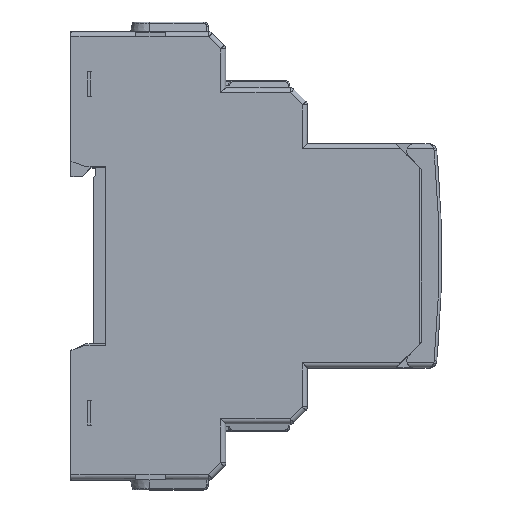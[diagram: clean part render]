
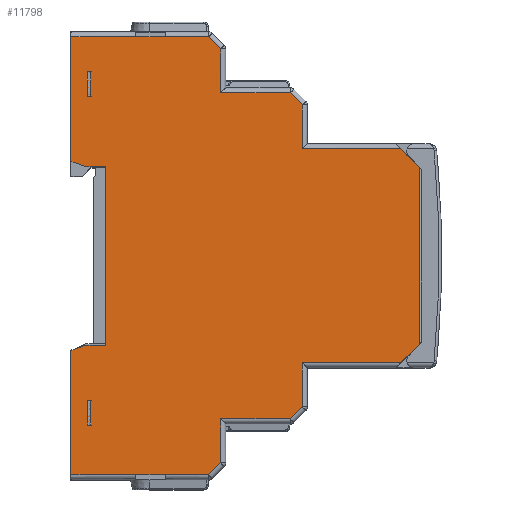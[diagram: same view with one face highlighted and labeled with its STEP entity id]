
A CAD part, top view. The second image highlights one B-rep face of the part: STEP entity #11798.
In plain terms, the highlighted planar face has unit normal (0, 0, 1).
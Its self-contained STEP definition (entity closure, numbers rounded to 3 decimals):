
#1291=FACE_OUTER_BOUND($,#1913,.T.);
#1913=EDGE_LOOP($,(#9341,#9342,#9343,#9344,#9345,#9346,#9347,#9348,#9349,
#9350,#9351,#9352,#9353,#9354,#9355,#9356,#9357,#9358,#9359,#9360,#9361,
#9362,#9363,#9364,#9365,#9366,#9367,#9368));
#2600=LINE($,#17263,#3821);
#2616=LINE($,#17299,#3837);
#2851=LINE($,#18080,#4072);
#2867=LINE($,#18133,#4088);
#3095=LINE($,#18943,#4316);
#3096=LINE($,#18945,#4317);
#3097=LINE($,#18947,#4318);
#3098=LINE($,#18949,#4319);
#3099=LINE($,#18951,#4320);
#3100=LINE($,#18953,#4321);
#3101=LINE($,#18955,#4322);
#3102=LINE($,#18957,#4323);
#3103=LINE($,#18959,#4324);
#3104=LINE($,#18961,#4325);
#3105=LINE($,#18963,#4326);
#3106=LINE($,#18965,#4327);
#3107=LINE($,#18967,#4328);
#3108=LINE($,#18969,#4329);
#3109=LINE($,#18971,#4330);
#3110=LINE($,#18973,#4331);
#3111=LINE($,#18974,#4332);
#3112=LINE($,#18975,#4333);
#3113=LINE($,#18977,#4334);
#3114=LINE($,#18979,#4335);
#3115=LINE($,#18981,#4336);
#3116=LINE($,#18983,#4337);
#3117=LINE($,#18984,#4338);
#3118=LINE($,#18985,#4339);
#3821=VECTOR($,#13713,6.);
#3837=VECTOR($,#13735,6.);
#4072=VECTOR($,#14364,25.);
#4088=VECTOR($,#14416,25.);
#4316=VECTOR($,#14928,8.686);
#4317=VECTOR($,#14929,3.414);
#4318=VECTOR($,#14930,8.836);
#4319=VECTOR($,#14931,13.986);
#4320=VECTOR($,#14932,3.414);
#4321=VECTOR($,#14933,8.836);
#4322=VECTOR($,#14934,19.8);
#4323=VECTOR($,#14935,5.233);
#4324=VECTOR($,#14936,35.6);
#4325=VECTOR($,#14937,5.233);
#4326=VECTOR($,#14938,19.8);
#4327=VECTOR($,#14939,8.836);
#4328=VECTOR($,#14940,3.414);
#4329=VECTOR($,#14941,13.986);
#4330=VECTOR($,#14942,8.836);
#4331=VECTOR($,#14943,3.414);
#4332=VECTOR($,#14944,8.686);
#4333=VECTOR($,#14945,13.);
#4334=VECTOR($,#14946,3.178);
#4335=VECTOR($,#14947,4.);
#4336=VECTOR($,#14948,35.9);
#4337=VECTOR($,#14949,4.);
#4338=VECTOR($,#14950,3.178);
#4339=VECTOR($,#14951,13.);
#4984=VERTEX_POINT($,#17257);
#4986=VERTEX_POINT($,#17261);
#5001=VERTEX_POINT($,#17295);
#5003=VERTEX_POINT($,#17298);
#5288=VERTEX_POINT($,#18070);
#5292=VERTEX_POINT($,#18078);
#5310=VERTEX_POINT($,#18130);
#5311=VERTEX_POINT($,#18132);
#5595=VERTEX_POINT($,#18942);
#5596=VERTEX_POINT($,#18944);
#5597=VERTEX_POINT($,#18946);
#5598=VERTEX_POINT($,#18948);
#5599=VERTEX_POINT($,#18950);
#5600=VERTEX_POINT($,#18952);
#5601=VERTEX_POINT($,#18954);
#5602=VERTEX_POINT($,#18956);
#5603=VERTEX_POINT($,#18958);
#5604=VERTEX_POINT($,#18960);
#5605=VERTEX_POINT($,#18962);
#5606=VERTEX_POINT($,#18964);
#5607=VERTEX_POINT($,#18966);
#5608=VERTEX_POINT($,#18968);
#5609=VERTEX_POINT($,#18970);
#5610=VERTEX_POINT($,#18972);
#5611=VERTEX_POINT($,#18976);
#5612=VERTEX_POINT($,#18978);
#5613=VERTEX_POINT($,#18980);
#5614=VERTEX_POINT($,#18982);
#6336=EDGE_CURVE($,#4984,#4986,#2600,.T.);
#6352=EDGE_CURVE($,#5003,#5001,#2616,.T.);
#6702=EDGE_CURVE($,#5288,#5292,#2851,.T.);
#6727=EDGE_CURVE($,#5311,#5310,#2867,.T.);
#7084=EDGE_CURVE($,#5001,#5595,#3095,.T.);
#7085=EDGE_CURVE($,#5595,#5596,#3096,.T.);
#7086=EDGE_CURVE($,#5596,#5597,#3097,.T.);
#7087=EDGE_CURVE($,#5597,#5598,#3098,.T.);
#7088=EDGE_CURVE($,#5598,#5599,#3099,.T.);
#7089=EDGE_CURVE($,#5599,#5600,#3100,.T.);
#7090=EDGE_CURVE($,#5600,#5601,#3101,.T.);
#7091=EDGE_CURVE($,#5601,#5602,#3102,.T.);
#7092=EDGE_CURVE($,#5602,#5603,#3103,.T.);
#7093=EDGE_CURVE($,#5604,#5603,#3104,.T.);
#7094=EDGE_CURVE($,#5604,#5605,#3105,.T.);
#7095=EDGE_CURVE($,#5605,#5606,#3106,.T.);
#7096=EDGE_CURVE($,#5606,#5607,#3107,.T.);
#7097=EDGE_CURVE($,#5607,#5608,#3108,.T.);
#7098=EDGE_CURVE($,#5608,#5609,#3109,.T.);
#7099=EDGE_CURVE($,#5609,#5610,#3110,.T.);
#7100=EDGE_CURVE($,#5610,#4984,#3111,.T.);
#7101=EDGE_CURVE($,#4986,#5288,#3112,.T.);
#7102=EDGE_CURVE($,#5611,#5292,#3113,.T.);
#7103=EDGE_CURVE($,#5612,#5611,#3114,.T.);
#7104=EDGE_CURVE($,#5613,#5612,#3115,.T.);
#7105=EDGE_CURVE($,#5614,#5613,#3116,.T.);
#7106=EDGE_CURVE($,#5311,#5614,#3117,.T.);
#7107=EDGE_CURVE($,#5310,#5003,#3118,.T.);
#9341=ORIENTED_EDGE($,*,*,#7084,.T.);
#9342=ORIENTED_EDGE($,*,*,#7085,.T.);
#9343=ORIENTED_EDGE($,*,*,#7086,.T.);
#9344=ORIENTED_EDGE($,*,*,#7087,.T.);
#9345=ORIENTED_EDGE($,*,*,#7088,.T.);
#9346=ORIENTED_EDGE($,*,*,#7089,.T.);
#9347=ORIENTED_EDGE($,*,*,#7090,.T.);
#9348=ORIENTED_EDGE($,*,*,#7091,.T.);
#9349=ORIENTED_EDGE($,*,*,#7092,.T.);
#9350=ORIENTED_EDGE($,*,*,#7093,.F.);
#9351=ORIENTED_EDGE($,*,*,#7094,.T.);
#9352=ORIENTED_EDGE($,*,*,#7095,.T.);
#9353=ORIENTED_EDGE($,*,*,#7096,.T.);
#9354=ORIENTED_EDGE($,*,*,#7097,.T.);
#9355=ORIENTED_EDGE($,*,*,#7098,.T.);
#9356=ORIENTED_EDGE($,*,*,#7099,.T.);
#9357=ORIENTED_EDGE($,*,*,#7100,.T.);
#9358=ORIENTED_EDGE($,*,*,#6336,.T.);
#9359=ORIENTED_EDGE($,*,*,#7101,.T.);
#9360=ORIENTED_EDGE($,*,*,#6702,.T.);
#9361=ORIENTED_EDGE($,*,*,#7102,.F.);
#9362=ORIENTED_EDGE($,*,*,#7103,.F.);
#9363=ORIENTED_EDGE($,*,*,#7104,.F.);
#9364=ORIENTED_EDGE($,*,*,#7105,.F.);
#9365=ORIENTED_EDGE($,*,*,#7106,.F.);
#9366=ORIENTED_EDGE($,*,*,#6727,.T.);
#9367=ORIENTED_EDGE($,*,*,#7107,.T.);
#9368=ORIENTED_EDGE($,*,*,#6352,.T.);
#11484=PLANE($,#12634);
#11798=ADVANCED_FACE($,(#1291),#11484,.F.);
#12634=AXIS2_PLACEMENT_3D($,#18941,#14926,#14927);
#13713=DIRECTION($,(-1.,0.,0.));
#13735=DIRECTION($,(1.,0.,0.));
#14364=DIRECTION($,(0.,-1.,0.));
#14416=DIRECTION($,(0.,-1.,0.));
#14926=DIRECTION('center_axis',(0.,0.,-1.));
#14927=DIRECTION('ref_axis',(-1.,0.,0.));
#14928=DIRECTION($,(1.,0.,0.));
#14929=DIRECTION($,(0.707,0.707,0.));
#14930=DIRECTION($,(0.,1.,0.));
#14931=DIRECTION($,(1.,0.,0.));
#14932=DIRECTION($,(0.707,0.707,0.));
#14933=DIRECTION($,(0.,1.,0.));
#14934=DIRECTION($,(1.,0.,0.));
#14935=DIRECTION($,(0.707,0.707,0.));
#14936=DIRECTION($,(0.,1.,0.));
#14937=DIRECTION($,(0.707,-0.707,0.));
#14938=DIRECTION($,(-1.,0.,0.));
#14939=DIRECTION($,(0.,1.,0.));
#14940=DIRECTION($,(-0.707,0.707,0.));
#14941=DIRECTION($,(-1.,0.,0.));
#14942=DIRECTION($,(0.,1.,0.));
#14943=DIRECTION($,(-0.707,0.707,0.));
#14944=DIRECTION($,(-1.,0.,0.));
#14945=DIRECTION($,(-1.,0.,0.));
#14946=DIRECTION($,(-0.944,0.33,0.));
#14947=DIRECTION($,(-1.,0.,0.));
#14948=DIRECTION($,(0.,1.,0.));
#14949=DIRECTION($,(1.,0.,0.));
#14950=DIRECTION($,(0.944,0.33,0.));
#14951=DIRECTION($,(1.,0.,0.));
#17257=CARTESIAN_POINT('',(19.,44.,18.));
#17261=CARTESIAN_POINT('',(13.,44.,18.));
#17263=CARTESIAN_POINT($,(19.,44.,18.));
#17295=CARTESIAN_POINT('',(19.,-44.,18.));
#17298=CARTESIAN_POINT('',(13.,-44.,18.));
#17299=CARTESIAN_POINT($,(13.,-44.,18.));
#18070=CARTESIAN_POINT('',(0.,44.,18.));
#18078=CARTESIAN_POINT('',(0.,19.,18.));
#18080=CARTESIAN_POINT($,(0.,-45.,18.));
#18130=CARTESIAN_POINT('',(0.,-44.,18.));
#18132=CARTESIAN_POINT('',(0.,-19.,18.));
#18133=CARTESIAN_POINT($,(0.,-45.,18.));
#18941=CARTESIAN_POINT('Origin',(31.1,45.,18.));
#18942=CARTESIAN_POINT('',(27.686,-44.,18.));
#18943=CARTESIAN_POINT($,(31.1,-44.,18.));
#18944=CARTESIAN_POINT('',(30.1,-41.586,18.));
#18945=CARTESIAN_POINT($,(30.393,-41.293,18.));
#18946=CARTESIAN_POINT('',(30.1,-32.75,18.));
#18947=CARTESIAN_POINT($,(30.1,45.,18.));
#18948=CARTESIAN_POINT('',(44.086,-32.75,18.));
#18949=CARTESIAN_POINT($,(31.1,-32.75,18.));
#18950=CARTESIAN_POINT('',(46.5,-30.336,18.));
#18951=CARTESIAN_POINT($,(46.793,-30.043,18.));
#18952=CARTESIAN_POINT('',(46.5,-21.5,18.));
#18953=CARTESIAN_POINT($,(46.5,45.,18.));
#18954=CARTESIAN_POINT('',(66.3,-21.5,18.));
#18955=CARTESIAN_POINT($,(31.1,-21.5,18.));
#18956=CARTESIAN_POINT('',(70.,-17.8,18.));
#18957=CARTESIAN_POINT($,(65.3,-22.5,18.));
#18958=CARTESIAN_POINT('',(70.,17.8,18.));
#18959=CARTESIAN_POINT($,(70.,45.,18.));
#18960=CARTESIAN_POINT('',(66.3,21.5,18.));
#18961=CARTESIAN_POINT($,(65.3,22.5,18.));
#18962=CARTESIAN_POINT('',(46.5,21.5,18.));
#18963=CARTESIAN_POINT($,(31.1,21.5,18.));
#18964=CARTESIAN_POINT('',(46.5,30.336,18.));
#18965=CARTESIAN_POINT($,(46.5,45.,18.));
#18966=CARTESIAN_POINT('',(44.086,32.75,18.));
#18967=CARTESIAN_POINT($,(43.793,33.043,18.));
#18968=CARTESIAN_POINT('',(30.1,32.75,18.));
#18969=CARTESIAN_POINT($,(31.1,32.75,18.));
#18970=CARTESIAN_POINT('',(30.1,41.586,18.));
#18971=CARTESIAN_POINT($,(30.1,45.,18.));
#18972=CARTESIAN_POINT('',(27.686,44.,18.));
#18973=CARTESIAN_POINT($,(27.393,44.293,18.));
#18974=CARTESIAN_POINT($,(31.1,44.,18.));
#18975=CARTESIAN_POINT($,(31.1,44.,18.));
#18976=CARTESIAN_POINT('',(3.,17.95,18.));
#18977=CARTESIAN_POINT($,(0.,19.,18.));
#18978=CARTESIAN_POINT('',(7.,17.95,18.));
#18979=CARTESIAN_POINT($,(3.,17.95,18.));
#18980=CARTESIAN_POINT('',(7.,-17.95,18.));
#18981=CARTESIAN_POINT($,(7.,-19.068,18.));
#18982=CARTESIAN_POINT('',(3.,-17.95,18.));
#18983=CARTESIAN_POINT($,(3.,-17.95,18.));
#18984=CARTESIAN_POINT($,(0.,-19.,18.));
#18985=CARTESIAN_POINT($,(31.1,-44.,18.));
